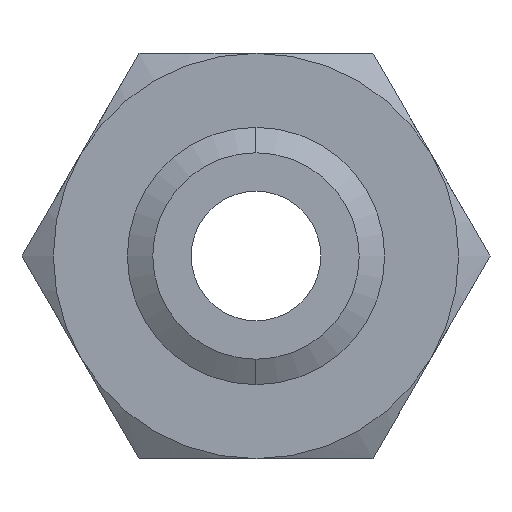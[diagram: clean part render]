
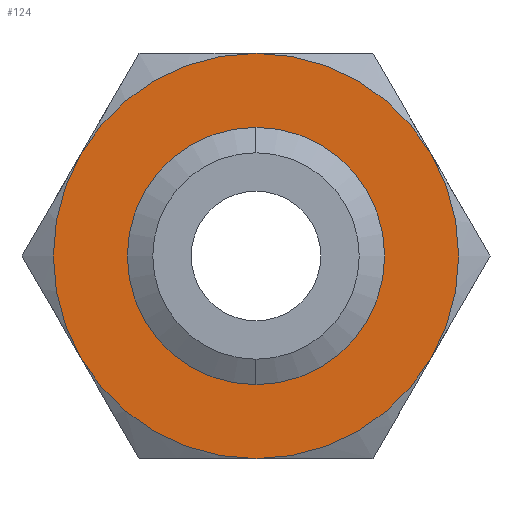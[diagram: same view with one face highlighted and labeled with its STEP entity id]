
A CAD part, front view. The second image highlights one B-rep face of the part: STEP entity #124.
In plain terms, the highlighted planar face has unit normal (0, -1, 0).
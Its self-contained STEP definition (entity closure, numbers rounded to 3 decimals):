
#6 = VERTEX_POINT ( 'NONE', #439 ) ;
#28 = VERTEX_POINT ( 'NONE', #457 ) ;
#34 = EDGE_CURVE ( 'NONE', #6, #28, #513, .T. ) ;
#108 = EDGE_CURVE ( 'NONE', #109, #113, #662, .T. ) ;
#109 = VERTEX_POINT ( 'NONE', #652 ) ;
#110 = ORIENTED_EDGE ( 'NONE', *, *, #108, .F. ) ;
#113 = VERTEX_POINT ( 'NONE', #646 ) ;
#118 = VERTEX_POINT ( 'NONE', #703 ) ;
#124 = ADVANCED_FACE ( 'NONE', ( #691, #690 ), #689, .F. ) ;
#125 = EDGE_LOOP ( 'NONE', ( #1926, #1930, #110, #190, #1949, #1944 ) ) ;
#189 = EDGE_CURVE ( 'NONE', #1947, #109, #769, .T. ) ;
#190 = ORIENTED_EDGE ( 'NONE', *, *, #189, .F. ) ;
#439 = CARTESIAN_POINT ( 'NONE',  ( 0., 0., -12.731 ) ) ;
#457 = CARTESIAN_POINT ( 'NONE',  ( 0., 0., 12.731 ) ) ;
#509 = DIRECTION ( 'NONE',  ( 0., 0., -1. ) ) ;
#510 = DIRECTION ( 'NONE',  ( 0., -1., 0. ) ) ;
#511 = CARTESIAN_POINT ( 'NONE',  ( 0., 0., 0. ) ) ;
#512 = AXIS2_PLACEMENT_3D ( 'NONE', #511, #510, #509 ) ;
#513 = CIRCLE ( 'NONE', #512, 12.731 ) ;
#646 = CARTESIAN_POINT ( 'NONE',  ( -21.651, 0., 12.5 ) ) ;
#652 = CARTESIAN_POINT ( 'NONE',  ( -21.651, 0., -12.5 ) ) ;
#653 = DIRECTION ( 'NONE',  ( 0., 0., 1. ) ) ;
#654 = DIRECTION ( 'NONE',  ( 0., 1., 0. ) ) ;
#655 = CARTESIAN_POINT ( 'NONE',  ( 0., 0., 0. ) ) ;
#656 = AXIS2_PLACEMENT_3D ( 'NONE', #655, #654, #653 ) ;
#662 = CIRCLE ( 'NONE', #656, 25. ) ;
#685 = DIRECTION ( 'NONE',  ( 0., 0., 1. ) ) ;
#686 = DIRECTION ( 'NONE',  ( 0., 1., 0. ) ) ;
#687 = CARTESIAN_POINT ( 'NONE',  ( 14.434, 0., -25. ) ) ;
#688 = AXIS2_PLACEMENT_3D ( 'NONE', #687, #686, #685 ) ;
#689 = PLANE ( 'NONE',  #688 ) ;
#690 = FACE_BOUND ( 'NONE', #1942, .T. ) ;
#691 = FACE_OUTER_BOUND ( 'NONE', #125, .T. ) ;
#703 = CARTESIAN_POINT ( 'NONE',  ( 0., 0., 25. ) ) ;
#765 = DIRECTION ( 'NONE',  ( 0., 0., 1. ) ) ;
#766 = DIRECTION ( 'NONE',  ( 0., 1., 0. ) ) ;
#767 = CARTESIAN_POINT ( 'NONE',  ( 0., 0., 0. ) ) ;
#768 = AXIS2_PLACEMENT_3D ( 'NONE', #767, #766, #765 ) ;
#769 = CIRCLE ( 'NONE', #768, 25. ) ;
#1473 = DIRECTION ( 'NONE',  ( 0., 1., 0. ) ) ;
#1474 = CARTESIAN_POINT ( 'NONE',  ( 0., 0., 0. ) ) ;
#1475 = AXIS2_PLACEMENT_3D ( 'NONE', #1474, #1473, #1535 ) ;
#1476 = CIRCLE ( 'NONE', #1475, 25. ) ;
#1477 = DIRECTION ( 'NONE',  ( 0., 0., 1. ) ) ;
#1478 = DIRECTION ( 'NONE',  ( 0., 1., 0. ) ) ;
#1479 = CARTESIAN_POINT ( 'NONE',  ( 0., 0., 0. ) ) ;
#1480 = AXIS2_PLACEMENT_3D ( 'NONE', #1479, #1478, #1477 ) ;
#1481 = CIRCLE ( 'NONE', #1480, 25. ) ;
#1506 = CIRCLE ( 'NONE', #1567, 25. ) ;
#1514 = DIRECTION ( 'NONE',  ( 0., 0., -1. ) ) ;
#1515 = DIRECTION ( 'NONE',  ( 0., -1., 0. ) ) ;
#1516 = CARTESIAN_POINT ( 'NONE',  ( 0., 0., 0. ) ) ;
#1517 = AXIS2_PLACEMENT_3D ( 'NONE', #1516, #1515, #1514 ) ;
#1523 = CIRCLE ( 'NONE', #1517, 12.731 ) ;
#1534 = CARTESIAN_POINT ( 'NONE',  ( 21.651, 0., 12.5 ) ) ;
#1535 = DIRECTION ( 'NONE',  ( 0., 0., 1. ) ) ;
#1553 = DIRECTION ( 'NONE',  ( 0., 0., 1. ) ) ;
#1554 = DIRECTION ( 'NONE',  ( 0., 1., 0. ) ) ;
#1555 = CARTESIAN_POINT ( 'NONE',  ( 0., 0., 0. ) ) ;
#1556 = AXIS2_PLACEMENT_3D ( 'NONE', #1555, #1554, #1553 ) ;
#1557 = CIRCLE ( 'NONE', #1556, 25. ) ;
#1558 = CARTESIAN_POINT ( 'NONE',  ( 21.651, 0., -12.5 ) ) ;
#1559 = CARTESIAN_POINT ( 'NONE',  ( 0., 0., -25. ) ) ;
#1564 = DIRECTION ( 'NONE',  ( 0., 0., 1. ) ) ;
#1565 = DIRECTION ( 'NONE',  ( 0., 1., 0. ) ) ;
#1566 = CARTESIAN_POINT ( 'NONE',  ( 0., 0., 0. ) ) ;
#1567 = AXIS2_PLACEMENT_3D ( 'NONE', #1566, #1565, #1564 ) ;
#1926 = ORIENTED_EDGE ( 'NONE', *, *, #1927, .F. ) ;
#1927 = EDGE_CURVE ( 'NONE', #118, #1929, #1481, .T. ) ;
#1928 = EDGE_CURVE ( 'NONE', #113, #118, #1476, .T. ) ;
#1929 = VERTEX_POINT ( 'NONE', #1534 ) ;
#1930 = ORIENTED_EDGE ( 'NONE', *, *, #1928, .F. ) ;
#1935 = EDGE_CURVE ( 'NONE', #28, #6, #1523, .T. ) ;
#1940 = ORIENTED_EDGE ( 'NONE', *, *, #1935, .F. ) ;
#1941 = ORIENTED_EDGE ( 'NONE', *, *, #34, .F. ) ;
#1942 = EDGE_LOOP ( 'NONE', ( #1941, #1940 ) ) ;
#1943 = EDGE_CURVE ( 'NONE', #1929, #1948, #1506, .T. ) ;
#1944 = ORIENTED_EDGE ( 'NONE', *, *, #1943, .F. ) ;
#1947 = VERTEX_POINT ( 'NONE', #1559 ) ;
#1948 = VERTEX_POINT ( 'NONE', #1558 ) ;
#1949 = ORIENTED_EDGE ( 'NONE', *, *, #1950, .F. ) ;
#1950 = EDGE_CURVE ( 'NONE', #1948, #1947, #1557, .T. ) ;
